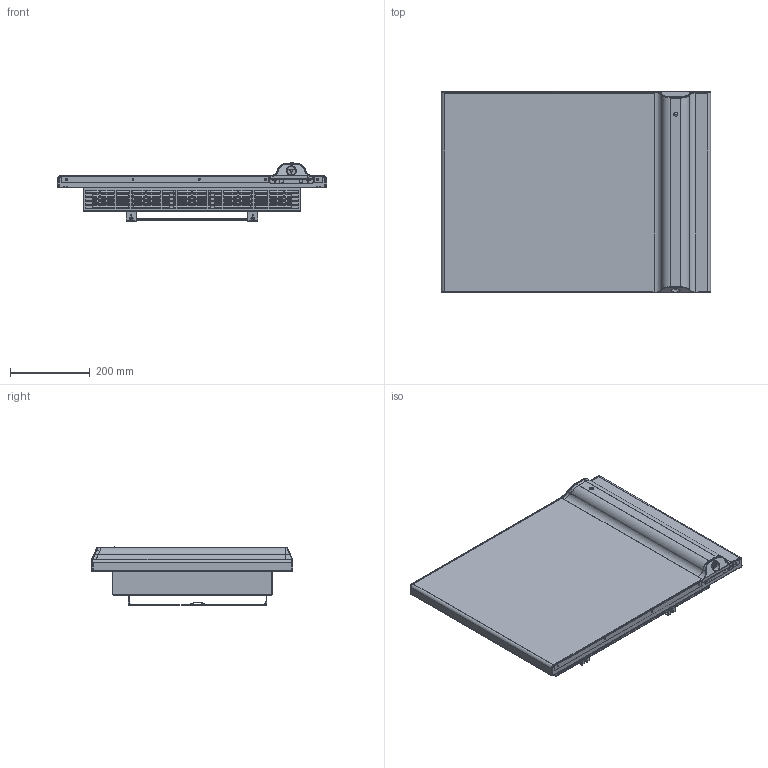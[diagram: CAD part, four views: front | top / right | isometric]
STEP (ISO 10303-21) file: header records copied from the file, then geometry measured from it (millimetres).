
FILE_DESCRIPTION(('FreeCAD Model'),'2;1');
FILE_NAME('Open CASCADE Shape Model','2026-06-05T09:59:27',(''),(''), 'Open CASCADE STEP processor 7.8','FreeCAD','Unknown');
FILE_SCHEMA(('AUTOMOTIVE_DESIGN { 1 0 10303 214 1 1 1 1 }'));
Length unit declared in the file: millimetre
Products named in the file (17): Klima_7; KLI_POSTERIORE_750W; KLI_GR-COMANDI_ASM; KLI_PIR-BOARD; KLI_TAPPO-INFERIORE; KLI_ANTERIORE_750W; KLI_GR-PROFILO-SUPERIO_750W_ASM; KLI_PROFILO-SUPERIORE_750W; KLI_COPERCHIO; KLI_DISPLAY-BOARD; KLI_ADESIVO; KLI_GR-SUPPORTO-MURALE_MIN_ASM; KLI_TRAVERSA-SUPPORTO_MIN; KLI_GR-ASTA-SUPPORTO-MURALE_ASM; KLI_SUPPORTO-MURALE; KLI_GR-ASTA-SUPPORTO-MURALE_ASM001; KLI_SUPPORTO-MURALE001
Assembly tree (16 placements, depth 4):
  Klima_7
    KLI_POSTERIORE_750W
    KLI_GR-COMANDI_ASM
      KLI_PIR-BOARD
    KLI_TAPPO-INFERIORE
    KLI_ANTERIORE_750W
    KLI_GR-PROFILO-SUPERIO_750W_ASM
      KLI_PROFILO-SUPERIORE_750W
    KLI_COPERCHIO
    KLI_DISPLAY-BOARD
    KLI_ADESIVO
    KLI_GR-SUPPORTO-MURALE_MIN_ASM
      KLI_TRAVERSA-SUPPORTO_MIN
      KLI_GR-ASTA-SUPPORTO-MURALE_ASM
        KLI_SUPPORTO-MURALE
      KLI_GR-ASTA-SUPPORTO-MURALE_ASM001
        KLI_SUPPORTO-MURALE001
Bounding box: 675 x 504.4 x 147 mm (x, y, z)
Volume: 737214.7 mm3; surface area: 1891292.8 mm2
Topology: 11 solids, 11 shells, 2294 faces, 5858 edges, 3577 vertices
Faces by surface type: plane 1302, cylinder 562, bspline 186, torus 138, cone 61, sphere 44, extrusion 1
Entity records: 80764 total; most frequent: CARTESIAN_POINT 25357, ORIENTED_EDGE 11672, DIRECTION 10832, EDGE_CURVE 5836, VECTOR 3952, LINE 3951, VERTEX_POINT 3577, AXIS2_PLACEMENT_3D 3440
